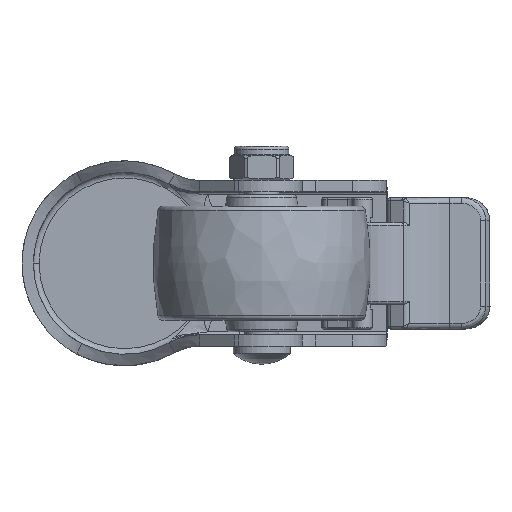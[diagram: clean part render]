
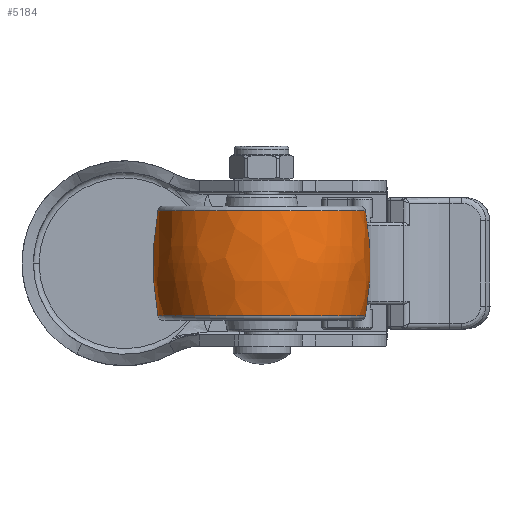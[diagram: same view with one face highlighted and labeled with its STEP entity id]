
A CAD part, front view. The second image highlights one B-rep face of the part: STEP entity #5184.
In plain terms, the highlighted free-form (B-spline) face has degree [3, 3] with [7, 4] control points.
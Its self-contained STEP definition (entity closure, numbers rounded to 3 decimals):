
#4800=CARTESIAN_POINT('',(0.,-31.,0.));
#4801=DIRECTION('',(0.,0.,1.));
#4802=DIRECTION('',(0.184,0.983,0.));
#4803=AXIS2_PLACEMENT_3D('',#4800,#4801,#4802);
#4805=CARTESIAN_POINT('',(0.,31.,0.));
#4806=DIRECTION('',(0.,0.,-1.));
#4807=DIRECTION('',(0.184,-0.983,0.));
#4808=AXIS2_PLACEMENT_3D('',#4805,#4806,#4807);
#4810=CARTESIAN_POINT('',(9.184,0.,0.));
#4811=DIRECTION('',(-1.,0.,0.));
#4812=DIRECTION('',(0.,1.,0.));
#4813=AXIS2_PLACEMENT_3D('',#4810,#4811,#4812);
#4835=CARTESIAN_POINT('',(-9.184,0.,0.));
#4836=DIRECTION('',(-1.,0.,0.));
#4837=DIRECTION('',(0.,1.,0.));
#4838=AXIS2_PLACEMENT_3D('',#4835,#4836,#4837);
#4957=CARTESIAN_POINT('',(9.184,18.149,0.));
#4959=VERTEX_POINT('',#4957);
#4960=CARTESIAN_POINT('',(-9.184,18.149,0.));
#4961=VERTEX_POINT('',#4960);
#4965=CARTESIAN_POINT('',(9.184,-18.149,0.));
#4967=VERTEX_POINT('',#4965);
#4968=CARTESIAN_POINT('',(-9.184,-18.149,0.));
#4969=VERTEX_POINT('',#4968);
#5146=CARTESIAN_POINT('',(-9.547,-18.044,
1.135));
#5147=CARTESIAN_POINT('',(-3.222,-19.272,
1.213));
#5148=CARTESIAN_POINT('',(3.222,-19.272,1.213));
#5149=CARTESIAN_POINT('',(9.547,-18.044,1.135));
#5150=CARTESIAN_POINT('',(-9.547,-18.743,
-9.969));
#5151=CARTESIAN_POINT('',(-3.222,-20.018,
-10.648));
#5152=CARTESIAN_POINT('',(3.222,-20.018,
-10.648));
#5153=CARTESIAN_POINT('',(9.547,-18.743,
-9.969));
#5154=CARTESIAN_POINT('',(-9.547,-11.127,
-18.08));
#5155=CARTESIAN_POINT('',(-3.222,-11.884,
-19.31));
#5156=CARTESIAN_POINT('',(3.222,-11.884,
-19.31));
#5157=CARTESIAN_POINT('',(9.547,-11.127,
-18.08));
#5158=CARTESIAN_POINT('',(-9.547,0.,-18.08));
#5159=CARTESIAN_POINT('',(-3.222,0.,-19.31));
#5160=CARTESIAN_POINT('',(3.222,0.,-19.31));
#5161=CARTESIAN_POINT('',(9.547,0.,-18.08));
#5162=CARTESIAN_POINT('',(-9.547,11.127,
-18.08));
#5163=CARTESIAN_POINT('',(-3.222,11.884,
-19.31));
#5164=CARTESIAN_POINT('',(3.222,11.884,-19.31));
#5165=CARTESIAN_POINT('',(9.547,11.127,-18.08));
#5166=CARTESIAN_POINT('',(-9.547,18.743,
-9.969));
#5167=CARTESIAN_POINT('',(-3.222,20.018,
-10.648));
#5168=CARTESIAN_POINT('',(3.222,20.018,-10.648));
#5169=CARTESIAN_POINT('',(9.547,18.743,-9.969));
#5170=CARTESIAN_POINT('',(-9.547,18.044,1.135));
#5171=CARTESIAN_POINT('',(-3.222,19.272,1.213));
#5172=CARTESIAN_POINT('',(3.222,19.272,1.213));
#5173=CARTESIAN_POINT('',(9.547,18.044,1.135));
#5174=(BOUNDED_SURFACE()B_SPLINE_SURFACE(3,3,((#5146,#5147,#5148,#5149),(#5150,
#5151,#5152,#5153),(#5154,#5155,#5156,#5157),(#5158,#5159,#5160,#5161),(#5162,
#5163,#5164,#5165),(#5166,#5167,#5168,#5169),(#5170,#5171,#5172,#5173)),
.UNSPECIFIED.,.F.,.F.,.F.)B_SPLINE_SURFACE_WITH_KNOTS((4,3,4),(4,4),(0.,1.,
2.),(0.,1.),.UNSPECIFIED.)GEOMETRIC_REPRESENTATION_ITEM()RATIONAL_B_SPLINE_SURFACE(((1.198,1.184,1.184,1.198),(
0.946,0.935,0.935,0.946),(
0.946,0.935,0.935,0.946),(
1.198,1.184,1.184,1.198),(
0.946,0.935,0.935,0.946),(
0.946,0.935,0.935,0.946),(
1.198,1.184,1.184,1.198)))REPRESENTATION_ITEM('')SURFACE());
#5176=ORIENTED_EDGE('',*,*,#5175,.T.);
#5178=ORIENTED_EDGE('',*,*,#5177,.T.);
#5180=ORIENTED_EDGE('',*,*,#5179,.F.);
#5181=ORIENTED_EDGE('',*,*,#5139,.F.);
#5182=EDGE_LOOP('',(#5176,#5178,#5180,#5181));
#5183=FACE_OUTER_BOUND('',#5182,.F.);
#4804=CIRCLE('',#4803,50.);
#4809=CIRCLE('',#4808,50.);
#4814=CIRCLE('',#4813,18.149);
#4839=CIRCLE('',#4838,18.149);
#5139=EDGE_CURVE('',#4959,#4967,#4814,.T.);
#5175=EDGE_CURVE('',#4959,#4961,#4804,.T.);
#5177=EDGE_CURVE('',#4961,#4969,#4839,.T.);
#5179=EDGE_CURVE('',#4967,#4969,#4809,.T.);
#5184=ADVANCED_FACE('',(#5183),#5174,.T.);
